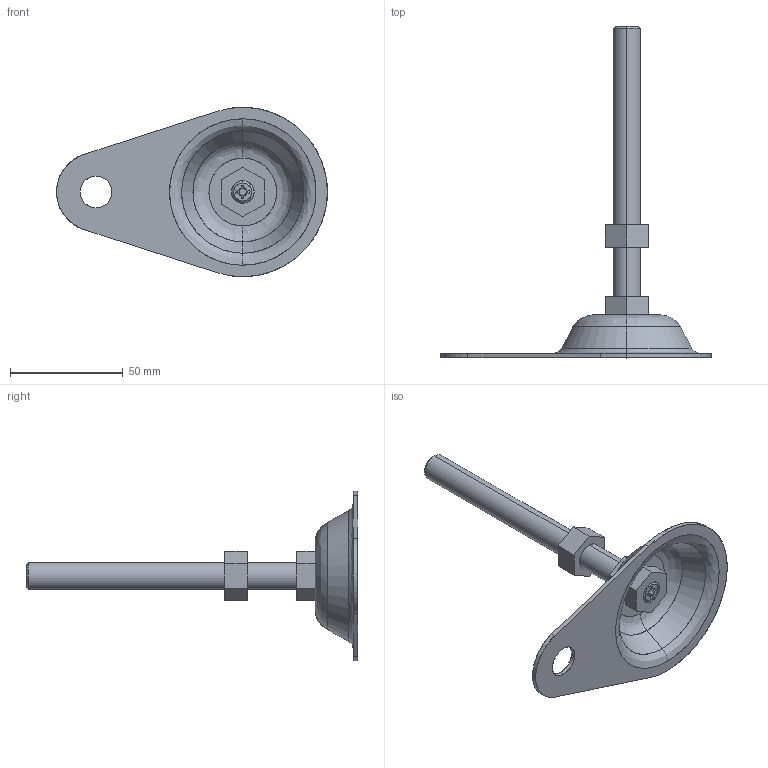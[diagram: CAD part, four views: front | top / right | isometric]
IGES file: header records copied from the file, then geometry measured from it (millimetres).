
Start section: SolidWorks IGES file using analytic representation for surfaces
Bounding box: 120 x 147 x 75 mm (x, y, z)
Surface area: 22270.3 mm2 (no closed solid volume)
Topology: 0 solids, 0 shells, 75 faces, 968 edges, 968 vertices
Faces by surface type: bspline 51, revolution 24
